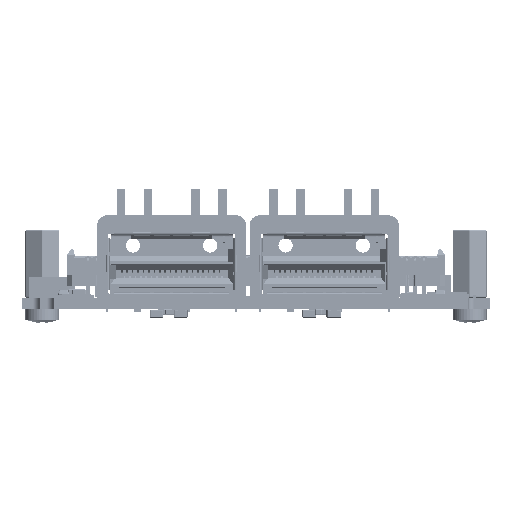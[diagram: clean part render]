
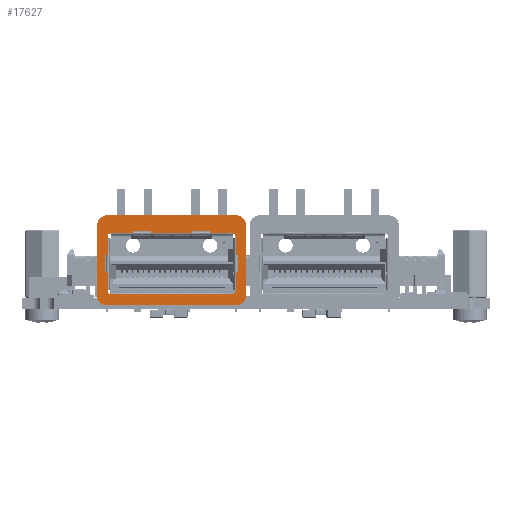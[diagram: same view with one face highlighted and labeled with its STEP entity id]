
A CAD part, left-side view. The second image highlights one B-rep face of the part: STEP entity #17627.
In plain terms, the highlighted planar face has unit normal (-1, 0, 0) as drawn and (0, 0, 1) by its records, which use the part's own axes.
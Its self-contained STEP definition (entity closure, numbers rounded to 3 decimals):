
#17627 = ADVANCED_FACE('',(#17628,#17698),#17896,.T.);
#17628 = FACE_BOUND('',#17629,.T.);
#17629 = EDGE_LOOP('',(#17630,#17640,#17649,#17657,#17666,#17674,#17683,
    #17691));
#17630 = ORIENTED_EDGE('',*,*,#17631,.T.);
#17631 = EDGE_CURVE('',#17632,#17634,#17636,.T.);
#17632 = VERTEX_POINT('',#17633);
#17633 = CARTESIAN_POINT('',(-11.,5.64,0.));
#17634 = VERTEX_POINT('',#17635);
#17635 = CARTESIAN_POINT('',(-11.,-4.65,0.));
#17636 = LINE('',#17637,#17638);
#17637 = CARTESIAN_POINT('',(-11.,5.64,0.));
#17638 = VECTOR('',#17639,1.);
#17639 = DIRECTION('',(0.,-1.,0.));
#17640 = ORIENTED_EDGE('',*,*,#17641,.T.);
#17641 = EDGE_CURVE('',#17634,#17642,#17644,.T.);
#17642 = VERTEX_POINT('',#17643);
#17643 = CARTESIAN_POINT('',(-9.5,-6.15,0.));
#17644 = CIRCLE('',#17645,1.5);
#17645 = AXIS2_PLACEMENT_3D('',#17646,#17647,#17648);
#17646 = CARTESIAN_POINT('',(-9.5,-4.65,0.));
#17647 = DIRECTION('',(0.,0.,1.));
#17648 = DIRECTION('',(-1.,0.,0.));
#17649 = ORIENTED_EDGE('',*,*,#17650,.T.);
#17650 = EDGE_CURVE('',#17642,#17651,#17653,.T.);
#17651 = VERTEX_POINT('',#17652);
#17652 = CARTESIAN_POINT('',(9.5,-6.15,0.));
#17653 = LINE('',#17654,#17655);
#17654 = CARTESIAN_POINT('',(-9.5,-6.15,0.));
#17655 = VECTOR('',#17656,1.);
#17656 = DIRECTION('',(1.,0.,0.));
#17657 = ORIENTED_EDGE('',*,*,#17658,.T.);
#17658 = EDGE_CURVE('',#17651,#17659,#17661,.T.);
#17659 = VERTEX_POINT('',#17660);
#17660 = CARTESIAN_POINT('',(11.,-4.65,0.));
#17661 = CIRCLE('',#17662,1.5);
#17662 = AXIS2_PLACEMENT_3D('',#17663,#17664,#17665);
#17663 = CARTESIAN_POINT('',(9.5,-4.65,0.));
#17664 = DIRECTION('',(0.,0.,1.));
#17665 = DIRECTION('',(0.,-1.,0.));
#17666 = ORIENTED_EDGE('',*,*,#17667,.T.);
#17667 = EDGE_CURVE('',#17659,#17668,#17670,.T.);
#17668 = VERTEX_POINT('',#17669);
#17669 = CARTESIAN_POINT('',(11.,5.64,0.));
#17670 = LINE('',#17671,#17672);
#17671 = CARTESIAN_POINT('',(11.,-4.65,0.));
#17672 = VECTOR('',#17673,1.);
#17673 = DIRECTION('',(0.,1.,0.));
#17674 = ORIENTED_EDGE('',*,*,#17675,.T.);
#17675 = EDGE_CURVE('',#17668,#17676,#17678,.T.);
#17676 = VERTEX_POINT('',#17677);
#17677 = CARTESIAN_POINT('',(9.5,7.14,0.));
#17678 = CIRCLE('',#17679,1.5);
#17679 = AXIS2_PLACEMENT_3D('',#17680,#17681,#17682);
#17680 = CARTESIAN_POINT('',(9.5,5.64,0.));
#17681 = DIRECTION('',(0.,0.,1.));
#17682 = DIRECTION('',(1.,0.,-0.));
#17683 = ORIENTED_EDGE('',*,*,#17684,.T.);
#17684 = EDGE_CURVE('',#17676,#17685,#17687,.T.);
#17685 = VERTEX_POINT('',#17686);
#17686 = CARTESIAN_POINT('',(-9.5,7.14,0.));
#17687 = LINE('',#17688,#17689);
#17688 = CARTESIAN_POINT('',(9.5,7.14,0.));
#17689 = VECTOR('',#17690,1.);
#17690 = DIRECTION('',(-1.,0.,0.));
#17691 = ORIENTED_EDGE('',*,*,#17692,.T.);
#17692 = EDGE_CURVE('',#17685,#17632,#17693,.T.);
#17693 = CIRCLE('',#17694,1.5);
#17694 = AXIS2_PLACEMENT_3D('',#17695,#17696,#17697);
#17695 = CARTESIAN_POINT('',(-9.5,5.64,0.));
#17696 = DIRECTION('',(0.,-0.,1.));
#17697 = DIRECTION('',(0.,1.,0.));
#17698 = FACE_BOUND('',#17699,.T.);
#17699 = EDGE_LOOP('',(#17700,#17710,#17718,#17726,#17734,#17742,#17750,
    #17759,#17767,#17775,#17783,#17791,#17799,#17808,#17816,#17825,
    #17833,#17841,#17849,#17857,#17865,#17874,#17882,#17890));
#17700 = ORIENTED_EDGE('',*,*,#17701,.T.);
#17701 = EDGE_CURVE('',#17702,#17704,#17706,.T.);
#17702 = VERTEX_POINT('',#17703);
#17703 = CARTESIAN_POINT('',(-2.995,4.85,0.));
#17704 = VERTEX_POINT('',#17705);
#17705 = CARTESIAN_POINT('',(-2.995,4.5,0.));
#17706 = LINE('',#17707,#17708);
#17707 = CARTESIAN_POINT('',(-2.995,4.85,0.));
#17708 = VECTOR('',#17709,1.);
#17709 = DIRECTION('',(0.,-1.,0.));
#17710 = ORIENTED_EDGE('',*,*,#17711,.T.);
#17711 = EDGE_CURVE('',#17704,#17712,#17714,.T.);
#17712 = VERTEX_POINT('',#17713);
#17713 = CARTESIAN_POINT('',(2.995,4.5,0.));
#17714 = LINE('',#17715,#17716);
#17715 = CARTESIAN_POINT('',(-2.995,4.5,0.));
#17716 = VECTOR('',#17717,1.);
#17717 = DIRECTION('',(1.,0.,0.));
#17718 = ORIENTED_EDGE('',*,*,#17719,.F.);
#17719 = EDGE_CURVE('',#17720,#17712,#17722,.T.);
#17720 = VERTEX_POINT('',#17721);
#17721 = CARTESIAN_POINT('',(2.995,4.85,0.));
#17722 = LINE('',#17723,#17724);
#17723 = CARTESIAN_POINT('',(2.995,4.85,0.));
#17724 = VECTOR('',#17725,1.);
#17725 = DIRECTION('',(0.,-1.,0.));
#17726 = ORIENTED_EDGE('',*,*,#17727,.T.);
#17727 = EDGE_CURVE('',#17720,#17728,#17730,.T.);
#17728 = VERTEX_POINT('',#17729);
#17729 = CARTESIAN_POINT('',(5.705,4.85,0.));
#17730 = LINE('',#17731,#17732);
#17731 = CARTESIAN_POINT('',(2.995,4.85,0.));
#17732 = VECTOR('',#17733,1.);
#17733 = DIRECTION('',(1.,0.,0.));
#17734 = ORIENTED_EDGE('',*,*,#17735,.T.);
#17735 = EDGE_CURVE('',#17728,#17736,#17738,.T.);
#17736 = VERTEX_POINT('',#17737);
#17737 = CARTESIAN_POINT('',(5.705,4.5,0.));
#17738 = LINE('',#17739,#17740);
#17739 = CARTESIAN_POINT('',(5.705,4.85,0.));
#17740 = VECTOR('',#17741,1.);
#17741 = DIRECTION('',(0.,-1.,0.));
#17742 = ORIENTED_EDGE('',*,*,#17743,.T.);
#17743 = EDGE_CURVE('',#17736,#17744,#17746,.T.);
#17744 = VERTEX_POINT('',#17745);
#17745 = CARTESIAN_POINT('',(8.925,4.5,0.));
#17746 = LINE('',#17747,#17748);
#17747 = CARTESIAN_POINT('',(5.705,4.5,0.));
#17748 = VECTOR('',#17749,1.);
#17749 = DIRECTION('',(1.,0.,0.));
#17750 = ORIENTED_EDGE('',*,*,#17751,.T.);
#17751 = EDGE_CURVE('',#17744,#17752,#17754,.T.);
#17752 = VERTEX_POINT('',#17753);
#17753 = CARTESIAN_POINT('',(9.425,4.,0.));
#17754 = CIRCLE('',#17755,0.5);
#17755 = AXIS2_PLACEMENT_3D('',#17756,#17757,#17758);
#17756 = CARTESIAN_POINT('',(8.925,4.,0.));
#17757 = DIRECTION('',(0.,0.,-1.));
#17758 = DIRECTION('',(0.,1.,0.));
#17759 = ORIENTED_EDGE('',*,*,#17760,.T.);
#17760 = EDGE_CURVE('',#17752,#17761,#17763,.T.);
#17761 = VERTEX_POINT('',#17762);
#17762 = CARTESIAN_POINT('',(9.425,1.25,0.));
#17763 = LINE('',#17764,#17765);
#17764 = CARTESIAN_POINT('',(9.425,4.,0.));
#17765 = VECTOR('',#17766,1.);
#17766 = DIRECTION('',(0.,-1.,0.));
#17767 = ORIENTED_EDGE('',*,*,#17768,.T.);
#17768 = EDGE_CURVE('',#17761,#17769,#17771,.T.);
#17769 = VERTEX_POINT('',#17770);
#17770 = CARTESIAN_POINT('',(9.775,1.25,0.));
#17771 = LINE('',#17772,#17773);
#17772 = CARTESIAN_POINT('',(9.425,1.25,0.));
#17773 = VECTOR('',#17774,1.);
#17774 = DIRECTION('',(1.,0.,0.));
#17775 = ORIENTED_EDGE('',*,*,#17776,.T.);
#17776 = EDGE_CURVE('',#17769,#17777,#17779,.T.);
#17777 = VERTEX_POINT('',#17778);
#17778 = CARTESIAN_POINT('',(9.775,-1.25,0.));
#17779 = LINE('',#17780,#17781);
#17780 = CARTESIAN_POINT('',(9.775,1.25,0.));
#17781 = VECTOR('',#17782,1.);
#17782 = DIRECTION('',(0.,-1.,0.));
#17783 = ORIENTED_EDGE('',*,*,#17784,.T.);
#17784 = EDGE_CURVE('',#17777,#17785,#17787,.T.);
#17785 = VERTEX_POINT('',#17786);
#17786 = CARTESIAN_POINT('',(9.425,-1.25,0.));
#17787 = LINE('',#17788,#17789);
#17788 = CARTESIAN_POINT('',(9.775,-1.25,0.));
#17789 = VECTOR('',#17790,1.);
#17790 = DIRECTION('',(-1.,0.,0.));
#17791 = ORIENTED_EDGE('',*,*,#17792,.T.);
#17792 = EDGE_CURVE('',#17785,#17793,#17795,.T.);
#17793 = VERTEX_POINT('',#17794);
#17794 = CARTESIAN_POINT('',(9.425,-4.,0.));
#17795 = LINE('',#17796,#17797);
#17796 = CARTESIAN_POINT('',(9.425,-1.25,0.));
#17797 = VECTOR('',#17798,1.);
#17798 = DIRECTION('',(0.,-1.,0.));
#17799 = ORIENTED_EDGE('',*,*,#17800,.T.);
#17800 = EDGE_CURVE('',#17793,#17801,#17803,.T.);
#17801 = VERTEX_POINT('',#17802);
#17802 = CARTESIAN_POINT('',(8.925,-4.5,0.));
#17803 = CIRCLE('',#17804,0.5);
#17804 = AXIS2_PLACEMENT_3D('',#17805,#17806,#17807);
#17805 = CARTESIAN_POINT('',(8.925,-4.,0.));
#17806 = DIRECTION('',(0.,0.,-1.));
#17807 = DIRECTION('',(1.,0.,0.));
#17808 = ORIENTED_EDGE('',*,*,#17809,.T.);
#17809 = EDGE_CURVE('',#17801,#17810,#17812,.T.);
#17810 = VERTEX_POINT('',#17811);
#17811 = CARTESIAN_POINT('',(-8.925,-4.5,0.));
#17812 = LINE('',#17813,#17814);
#17813 = CARTESIAN_POINT('',(8.925,-4.5,0.));
#17814 = VECTOR('',#17815,1.);
#17815 = DIRECTION('',(-1.,0.,0.));
#17816 = ORIENTED_EDGE('',*,*,#17817,.T.);
#17817 = EDGE_CURVE('',#17810,#17818,#17820,.T.);
#17818 = VERTEX_POINT('',#17819);
#17819 = CARTESIAN_POINT('',(-9.425,-4.,0.));
#17820 = CIRCLE('',#17821,0.5);
#17821 = AXIS2_PLACEMENT_3D('',#17822,#17823,#17824);
#17822 = CARTESIAN_POINT('',(-8.925,-4.,0.));
#17823 = DIRECTION('',(0.,0.,-1.));
#17824 = DIRECTION('',(0.,-1.,0.));
#17825 = ORIENTED_EDGE('',*,*,#17826,.T.);
#17826 = EDGE_CURVE('',#17818,#17827,#17829,.T.);
#17827 = VERTEX_POINT('',#17828);
#17828 = CARTESIAN_POINT('',(-9.425,-1.25,0.));
#17829 = LINE('',#17830,#17831);
#17830 = CARTESIAN_POINT('',(-9.425,-4.,0.));
#17831 = VECTOR('',#17832,1.);
#17832 = DIRECTION('',(0.,1.,0.));
#17833 = ORIENTED_EDGE('',*,*,#17834,.T.);
#17834 = EDGE_CURVE('',#17827,#17835,#17837,.T.);
#17835 = VERTEX_POINT('',#17836);
#17836 = CARTESIAN_POINT('',(-9.775,-1.25,0.));
#17837 = LINE('',#17838,#17839);
#17838 = CARTESIAN_POINT('',(-9.425,-1.25,0.));
#17839 = VECTOR('',#17840,1.);
#17840 = DIRECTION('',(-1.,0.,0.));
#17841 = ORIENTED_EDGE('',*,*,#17842,.T.);
#17842 = EDGE_CURVE('',#17835,#17843,#17845,.T.);
#17843 = VERTEX_POINT('',#17844);
#17844 = CARTESIAN_POINT('',(-9.775,1.25,0.));
#17845 = LINE('',#17846,#17847);
#17846 = CARTESIAN_POINT('',(-9.775,-1.25,0.));
#17847 = VECTOR('',#17848,1.);
#17848 = DIRECTION('',(0.,1.,0.));
#17849 = ORIENTED_EDGE('',*,*,#17850,.T.);
#17850 = EDGE_CURVE('',#17843,#17851,#17853,.T.);
#17851 = VERTEX_POINT('',#17852);
#17852 = CARTESIAN_POINT('',(-9.425,1.25,0.));
#17853 = LINE('',#17854,#17855);
#17854 = CARTESIAN_POINT('',(-9.775,1.25,0.));
#17855 = VECTOR('',#17856,1.);
#17856 = DIRECTION('',(1.,0.,0.));
#17857 = ORIENTED_EDGE('',*,*,#17858,.T.);
#17858 = EDGE_CURVE('',#17851,#17859,#17861,.T.);
#17859 = VERTEX_POINT('',#17860);
#17860 = CARTESIAN_POINT('',(-9.425,4.,0.));
#17861 = LINE('',#17862,#17863);
#17862 = CARTESIAN_POINT('',(-9.425,1.25,0.));
#17863 = VECTOR('',#17864,1.);
#17864 = DIRECTION('',(0.,1.,0.));
#17865 = ORIENTED_EDGE('',*,*,#17866,.T.);
#17866 = EDGE_CURVE('',#17859,#17867,#17869,.T.);
#17867 = VERTEX_POINT('',#17868);
#17868 = CARTESIAN_POINT('',(-8.925,4.5,0.));
#17869 = CIRCLE('',#17870,0.5);
#17870 = AXIS2_PLACEMENT_3D('',#17871,#17872,#17873);
#17871 = CARTESIAN_POINT('',(-8.925,4.,0.));
#17872 = DIRECTION('',(0.,0.,-1.));
#17873 = DIRECTION('',(-1.,0.,0.));
#17874 = ORIENTED_EDGE('',*,*,#17875,.T.);
#17875 = EDGE_CURVE('',#17867,#17876,#17878,.T.);
#17876 = VERTEX_POINT('',#17877);
#17877 = CARTESIAN_POINT('',(-5.705,4.5,0.));
#17878 = LINE('',#17879,#17880);
#17879 = CARTESIAN_POINT('',(-8.925,4.5,0.));
#17880 = VECTOR('',#17881,1.);
#17881 = DIRECTION('',(1.,0.,0.));
#17882 = ORIENTED_EDGE('',*,*,#17883,.F.);
#17883 = EDGE_CURVE('',#17884,#17876,#17886,.T.);
#17884 = VERTEX_POINT('',#17885);
#17885 = CARTESIAN_POINT('',(-5.705,4.85,0.));
#17886 = LINE('',#17887,#17888);
#17887 = CARTESIAN_POINT('',(-5.705,4.85,0.));
#17888 = VECTOR('',#17889,1.);
#17889 = DIRECTION('',(0.,-1.,0.));
#17890 = ORIENTED_EDGE('',*,*,#17891,.T.);
#17891 = EDGE_CURVE('',#17884,#17702,#17892,.T.);
#17892 = LINE('',#17893,#17894);
#17893 = CARTESIAN_POINT('',(-5.705,4.85,0.));
#17894 = VECTOR('',#17895,1.);
#17895 = DIRECTION('',(1.,0.,0.));
#17896 = PLANE('',#17897);
#17897 = AXIS2_PLACEMENT_3D('',#17898,#17899,#17900);
#17898 = CARTESIAN_POINT('',(0.,0.,0.));
#17899 = DIRECTION('',(0.,0.,1.));
#17900 = DIRECTION('',(1.,0.,-0.));
